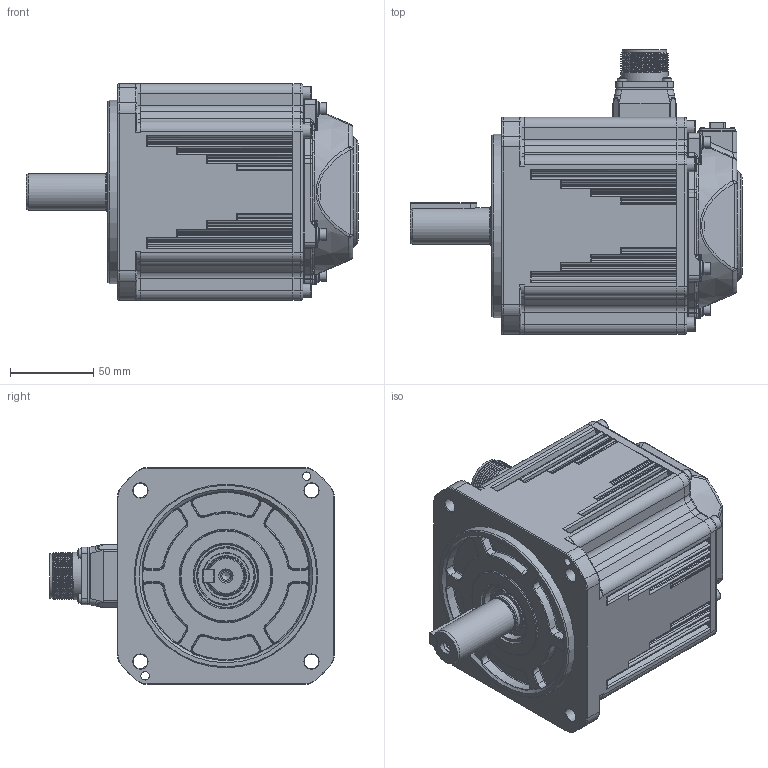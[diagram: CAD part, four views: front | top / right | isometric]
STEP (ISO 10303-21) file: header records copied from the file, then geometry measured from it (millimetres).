
FILE_DESCRIPTION (( 'STEP AP203' ), '1' );
FILE_NAME ('俋倛芞ACM1M-1313.STEP', '2023-01-10T03:55:03', ( '' ), ( '' ), 'SwSTEP 2.0', 'SolidWorks 2021', '' );
FILE_SCHEMA (( 'CONFIG_CONTROL_DESIGN' ));
Length unit declared in the file: millimetre
Products named in the file (14): 130前端盖0.85、1.3、1.8_成品-1.3; 萇埭脣釱蹟隊_M3℅10; 130晤鎢ん裔1M; 綴傷裔蹟隊_M5℅20; 130蛌粣09-XX 粣扥耳22 40Cr DC RoHS_LX晤鎢ん; C型平键8×7×45螺纹拆卸型; 1M晤鎢脣釱+蹟隊; ﾓﾍｷ筌ｻTC｣ｻ24｡ﾁ38｡ﾁ7｣ｻSOG; 晤鎢裔蹟隊; 航插动力接插件 4芯 SZ RoHS; 130瑤脣假蚾釱; 130后端盖 卡簧式 高30.9 ADC12 LM RoHS_加工; 130航插安装座密封垫 38.6×36.6×1.35 NBR HA70 RoHS; 俋倛芞ACM1M-1313
Assembly tree (22 placements, depth 2):
  俋倛芞ACM1M-1313
    130前端盖0.85、1.3、1.8_成品-1.3
    130蛌粣09-XX 粣扥耳22 40Cr DC RoHS_LX晤鎢ん
    130后端盖 卡簧式 高30.9 ADC12 LM RoHS_加工
    130晤鎢ん裔1M
    綴傷裔蹟隊_M5℅20  x4
    晤鎢裔蹟隊  x4
    130瑤脣假蚾釱
    130航插安装座密封垫 38.6×36.6×1.35 NBR HA70 RoHS
    1M晤鎢脣釱+蹟隊
    航插动力接插件 4芯 SZ RoHS
    萇埭脣釱蹟隊_M3℅10  x4
    ﾓﾍｷ筌ｻTC｣ｻ24｡ﾁ38｡ﾁ7｣ｻSOG
    C型平键8×7×45螺纹拆卸型
Bounding box: 199 x 170.7 x 130 mm (x, y, z)
Volume: 2252315.9 mm3; surface area: 220160.4 mm2
Topology: 35 solids, 42 shells, 3192 faces, 8255 edges, 5198 vertices
Faces by surface type: plane 1572, cylinder 849, torus 383, bspline 289, cone 88, sphere 11
Full cylindrical faces by diameter (mm): 1.5 x6, 1.6 x8, 2 x1, 2.2 x2, 2.4 x4, 2.48 x4, 2.5 x4, 2.598 x4, 2.6 x2, 2.8 x4, 3 x5, 3.08 x1, 3.2 x8, 3.3 x5, 3.5 x4, 3.7 x4, 3.9 x4, 4 x4, 4.2 x4, 4.5 x8, 5 x7, 5.5 x4, 5.6 x4, 6.4 x1, 7 x4, 8.5 x8, 9 x4, 21.7 x1, 21.9 x2, 22 x1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
Entity records: 122239 total; most frequent: CARTESIAN_POINT 51042, ORIENTED_EDGE 14764, DIRECTION 13685, EDGE_CURVE 7382, AXIS2_PLACEMENT_3D 4835, VERTEX_POINT 4808, VECTOR 4015, LINE 4015
